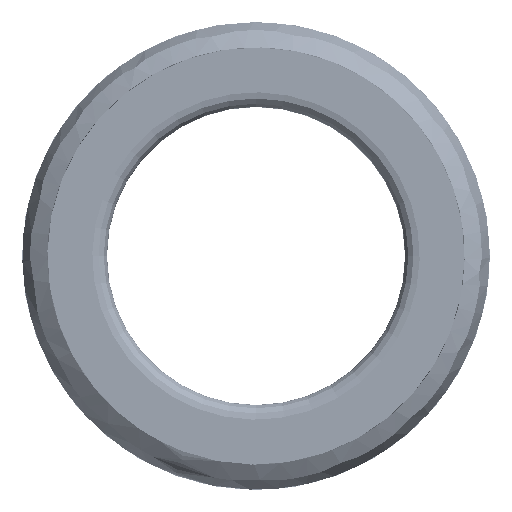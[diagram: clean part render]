
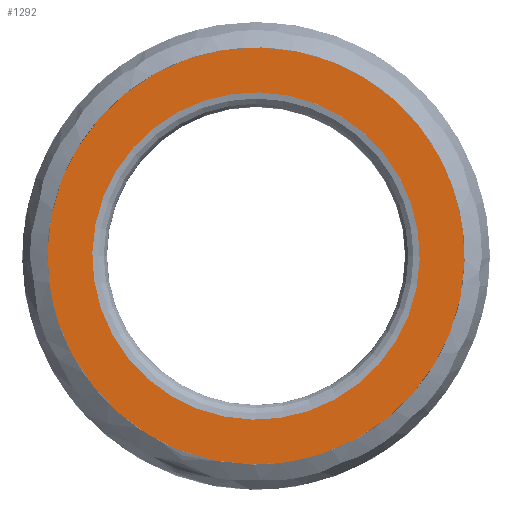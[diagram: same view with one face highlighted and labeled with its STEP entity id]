
A CAD part, front view. The second image highlights one B-rep face of the part: STEP entity #1292.
In plain terms, the highlighted planar face has unit normal (0, -1, 0) as drawn and (0, 1, 0) by its records, which use the part's own axes.
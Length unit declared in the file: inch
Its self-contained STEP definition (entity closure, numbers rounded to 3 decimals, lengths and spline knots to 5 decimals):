
#1230=CARTESIAN_POINT('',(-0.412,1.5,0.));
#1231=VERTEX_POINT('',#1230);
#1232=CARTESIAN_POINT('',(0.0,1.5,0.0));
#1233=DIRECTION('',(0.0,-1.0,0.0));
#1234=DIRECTION('',(1.0,0.0,0.0));
#1235=AXIS2_PLACEMENT_3D('',#1232,#1233,#1234);
#1236=CIRCLE('',#1235,0.412);
#1237=EDGE_CURVE('',#1231,#1231,#1236,.T.);
#1258=CARTESIAN_POINT('',(-0.525,1.5,0.));
#1259=VERTEX_POINT('',#1258);
#1260=CARTESIAN_POINT('',(0.0,1.5,0.0));
#1261=DIRECTION('',(0.0,-1.0,0.0));
#1262=DIRECTION('',(1.0,0.0,0.0));
#1263=AXIS2_PLACEMENT_3D('',#1260,#1261,#1262);
#1264=CIRCLE('',#1263,0.525);
#1265=EDGE_CURVE('',#1259,#1259,#1264,.T.);
#1281=CARTESIAN_POINT('',(0.0,1.5,0.0));
#1282=DIRECTION('',(0.0,-1.0,0.0));
#1283=DIRECTION('',(0.0,0.0,-1.0));
#1284=AXIS2_PLACEMENT_3D('',#1281,#1282,#1283);
#1285=PLANE('',#1284);
#1286=ORIENTED_EDGE('',*,*,#1265,.F.);
#1287=EDGE_LOOP('',(#1286));
#1288=FACE_OUTER_BOUND('',#1287,.T.);
#1289=ORIENTED_EDGE('',*,*,#1237,.T.);
#1290=EDGE_LOOP('',(#1289));
#1291=FACE_BOUND('',#1290,.T.);
#1292=ADVANCED_FACE('',(#1288,#1291),#1285,.F.);
